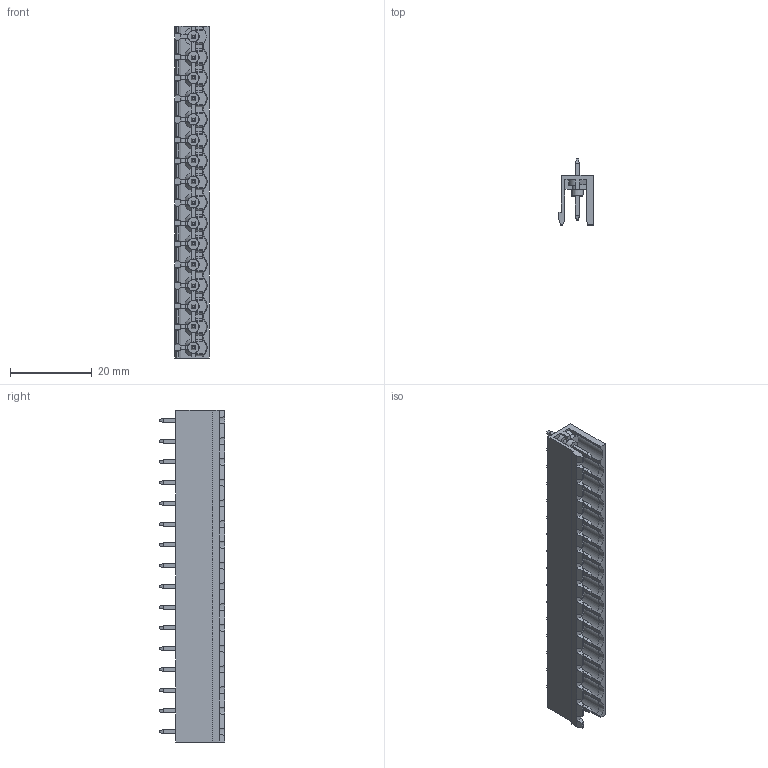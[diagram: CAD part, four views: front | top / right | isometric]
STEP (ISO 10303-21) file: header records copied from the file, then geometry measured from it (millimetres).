
FILE_DESCRIPTION (( 'STEP AP203' ), '1' );
FILE_NAME ('BR8MC1-16.STEP', '2020-03-18T03:04:45', ( '' ), ( '' ), 'SwSTEP 2.0', 'SolidWorks 2019', '' );
FILE_SCHEMA (( 'CONFIG_CONTROL_DESIGN' ));
Length unit declared in the file: millimetre
Products named in the file (1): BR8MC1-16
Bounding box: 8.5 x 16.03 x 81.28 mm (x, y, z)
Volume: 3078.6 mm3; surface area: 6819.4 mm2
Topology: 1 solids, 1 shells, 1347 faces, 3510 edges, 2165 vertices
Faces by surface type: plane 1157, cylinder 81, cone 77, sphere 32
Entity records: 40028 total; most frequent: CARTESIAN_POINT 7644, ORIENTED_EDGE 6892, DIRECTION 6309, EDGE_CURVE 3446, VECTOR 2941, LINE 2941, VERTEX_POINT 2133, AXIS2_PLACEMENT_3D 1684
